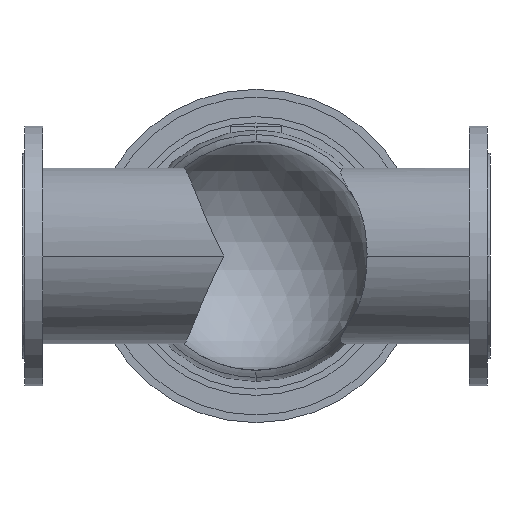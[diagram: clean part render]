
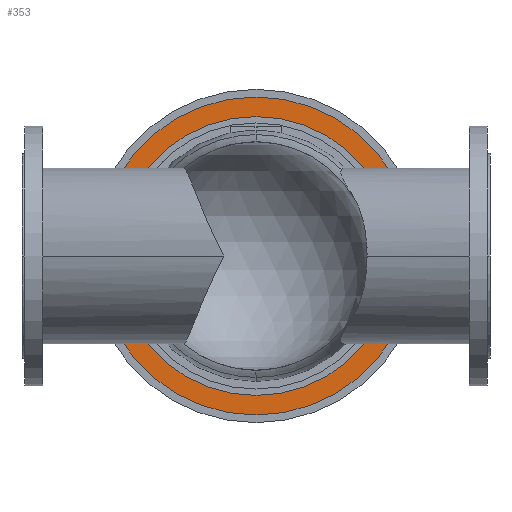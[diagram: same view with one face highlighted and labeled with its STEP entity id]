
A CAD part, front view. The second image highlights one B-rep face of the part: STEP entity #353.
In plain terms, the highlighted planar face has unit normal (0, -1, 0).
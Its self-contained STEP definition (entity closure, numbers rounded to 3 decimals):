
#353 = ADVANCED_FACE( '', ( #1009, #1010 ), #1011, .T. );
#1009 = FACE_OUTER_BOUND( '', #1809, .T. );
#1010 = FACE_BOUND( '', #1810, .T. );
#1011 = PLANE( '', #1811 );
#1809 = EDGE_LOOP( '', ( #4320, #4321 ) );
#1810 = EDGE_LOOP( '', ( #4322, #4323 ) );
#1811 = AXIS2_PLACEMENT_3D( '', #4324, #4325, #4326 );
#4320 = ORIENTED_EDGE( '', *, *, #5895, .F. );
#4321 = ORIENTED_EDGE( '', *, *, #5254, .F. );
#4322 = ORIENTED_EDGE( '', *, *, #5258, .T. );
#4323 = ORIENTED_EDGE( '', *, *, #5894, .T. );
#4324 = CARTESIAN_POINT( '', ( 597.75, 589.5, 0. ) );
#4325 = DIRECTION( '', ( 0., -1., 0. ) );
#4326 = DIRECTION( '', ( -1., 0., 0. ) );
#5254 = EDGE_CURVE( '', #6421, #6417, #6423, .T. );
#5258 = EDGE_CURVE( '', #6425, #6429, #6431, .T. );
#5894 = EDGE_CURVE( '', #6429, #6425, #7488, .T. );
#5895 = EDGE_CURVE( '', #6417, #6421, #7489, .T. );
#6417 = VERTEX_POINT( '', #8643 );
#6421 = VERTEX_POINT( '', #8648 );
#6423 = CIRCLE( '', #8651, 248. );
#6425 = VERTEX_POINT( '', #8653 );
#6429 = VERTEX_POINT( '', #8658 );
#6431 = CIRCLE( '', #8661, 217.5 );
#7488 = CIRCLE( '', #10249, 217.5 );
#7489 = CIRCLE( '', #10250, 248. );
#8643 = CARTESIAN_POINT( '', ( 613., 589.5, 0. ) );
#8648 = CARTESIAN_POINT( '', ( 117., 589.5, 0. ) );
#8651 = AXIS2_PLACEMENT_3D( '', #11035, #11036, #11037 );
#8653 = CARTESIAN_POINT( '', ( 582.5, 589.5, 0. ) );
#8658 = CARTESIAN_POINT( '', ( 147.5, 589.5, 0. ) );
#8661 = AXIS2_PLACEMENT_3D( '', #11043, #11044, #11045 );
#10249 = AXIS2_PLACEMENT_3D( '', #12014, #12015, #12016 );
#10250 = AXIS2_PLACEMENT_3D( '', #12017, #12018, #12019 );
#11035 = CARTESIAN_POINT( '', ( 365., 589.5, 0. ) );
#11036 = DIRECTION( '', ( 0., 1., 0. ) );
#11037 = DIRECTION( '', ( 1., 0., 0. ) );
#11043 = CARTESIAN_POINT( '', ( 365., 589.5, 0. ) );
#11044 = DIRECTION( '', ( 0., 1., 0. ) );
#11045 = DIRECTION( '', ( 1., 0., 0. ) );
#12014 = CARTESIAN_POINT( '', ( 365., 589.5, 0. ) );
#12015 = DIRECTION( '', ( 0., 1., 0. ) );
#12016 = DIRECTION( '', ( 1., 0., 0. ) );
#12017 = CARTESIAN_POINT( '', ( 365., 589.5, 0. ) );
#12018 = DIRECTION( '', ( 0., 1., 0. ) );
#12019 = DIRECTION( '', ( 1., 0., 0. ) );
